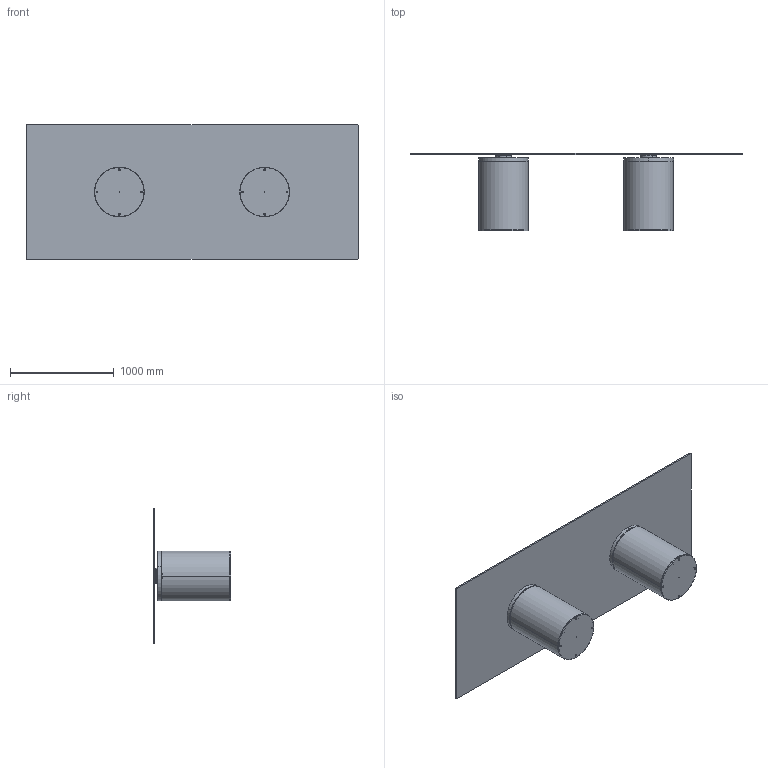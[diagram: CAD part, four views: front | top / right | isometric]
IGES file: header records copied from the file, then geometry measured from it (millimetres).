
Start section: SolidWorks IGES file using analytic representation for surfaces
Global section: file name: Y:\eforma\TECNICO\SOLIDWORKS\E-FORMA\1-TAVOLI\CILINDRO\02 parts\CI25G.IGS; native system: SolidWorks 2022; preprocessor: SolidWorks 2022; author: eforma.tech; date: 240808.085119; units: millimetre
Bounding box: 3200 x 747 x 1300 mm (x, y, z)
Volume: 85166804.6 mm3; surface area: 14980461.7 mm2
Topology: 37 solids, 37 shells, 956 faces, 2252 edges, 1342 vertices
Faces by surface type: revolution 604, plane 334, bspline 18
